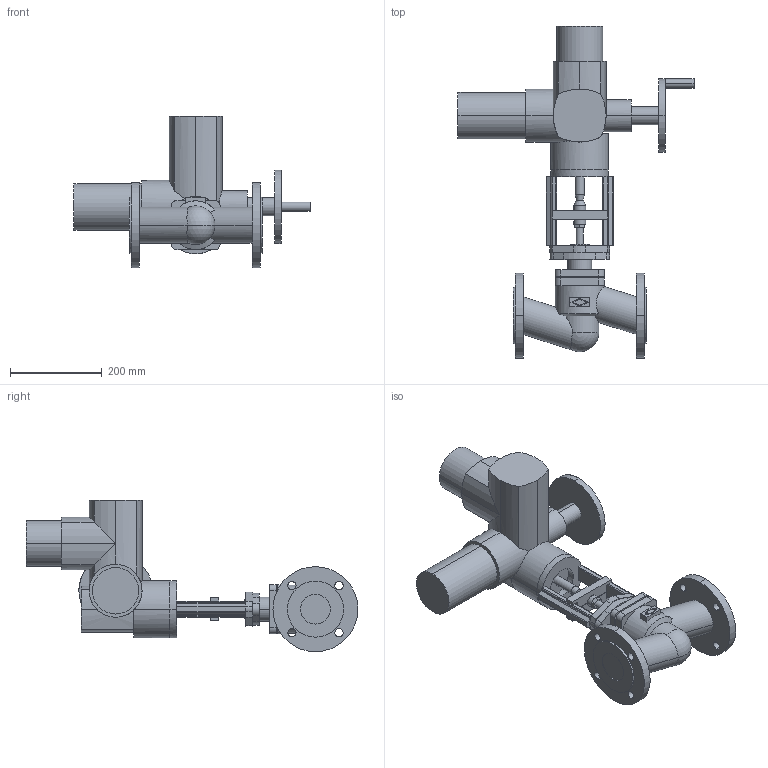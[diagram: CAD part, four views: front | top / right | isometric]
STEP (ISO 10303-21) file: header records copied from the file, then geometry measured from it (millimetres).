
FILE_DESCRIPTION(('OneSpaceDesigner STEP Export'),'2;1');
FILE_NAME('c000003079.stp','2007-01-09T10:39:42',(''),(''),'OneSpace Designer STEP processor for AP214 (Solid Model)','OneSpace Designer 14.00B 27-May-2006 (C) CoCreate Software GmbH','');
FILE_SCHEMA(('AUTOMOTIVE_DESIGN { 1 0 10303 214 1 1 1 1 }'));
Length unit declared in the file: millimetre
Products named in the file (3): 1; 2; 3
Bounding box: 514 x 722.5 x 329.5 mm (x, y, z)
Volume: 11870464.9 mm3; surface area: 726681.6 mm2
Topology: 3 solids, 3 shells, 265 faces, 678 edges, 433 vertices
Faces by surface type: cylinder 132, plane 125, cone 6, sphere 2
Entity records: 7955 total; most frequent: CARTESIAN_POINT 1865, ORIENTED_EDGE 1352, DIRECTION 1137, EDGE_CURVE 676, VERTEX_POINT 433, AXIS2_PLACEMENT_3D 382, VECTOR 373, LINE 373
